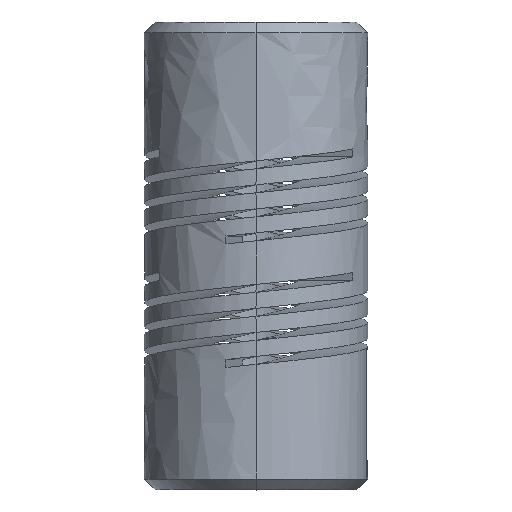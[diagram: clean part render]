
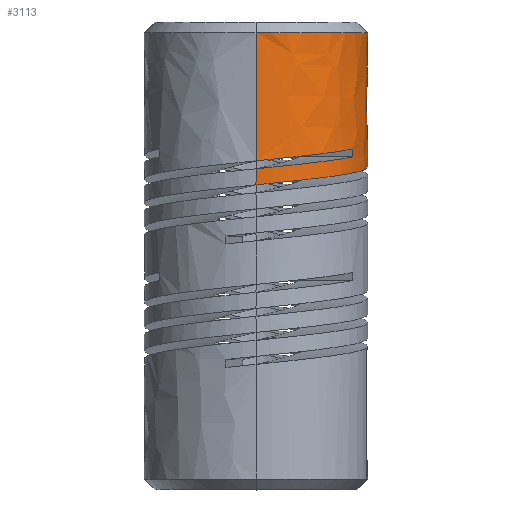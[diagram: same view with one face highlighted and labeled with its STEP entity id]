
A CAD part, top view. The second image highlights one B-rep face of the part: STEP entity #3113.
In plain terms, the highlighted free-form (B-spline) face has degree [1, 3] with [2, 13] control points.
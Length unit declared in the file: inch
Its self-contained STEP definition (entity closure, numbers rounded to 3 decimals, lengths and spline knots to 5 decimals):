
#116=CARTESIAN_POINT('',(-0.6132,0.12103,
-0.70292));
#117=CARTESIAN_POINT('',(-0.57376,0.11698,
-0.70292));
#118=CARTESIAN_POINT('',(-0.49491,0.10889,
-0.68384));
#119=CARTESIAN_POINT('',(-0.40281,0.09674,
-0.60425));
#120=CARTESIAN_POINT('',(-0.35734,0.08459,
-0.49135));
#121=CARTESIAN_POINT('',(-0.36856,0.07244,
-0.37015));
#122=CARTESIAN_POINT('',(-0.43398,0.06029,-0.2675));
#123=CARTESIAN_POINT('',(-0.5255,0.04972,
-0.21411));
#124=CARTESIAN_POINT('',(-0.58907,0.04319,
-0.20491));
#125=CARTESIAN_POINT('',(-0.6132,0.04072,
-0.20489));
#127=CARTESIAN_POINT('',(-0.6132,0.07654,
-0.20489));
#128=CARTESIAN_POINT('',(-0.60516,0.07737,
-0.20488));
#129=CARTESIAN_POINT('',(-0.55767,0.08225,
-0.20713));
#130=CARTESIAN_POINT('',(-0.47321,0.09117,
-0.2365));
#131=CARTESIAN_POINT('',(-0.41726,0.09927,
-0.29524));
#132=CARTESIAN_POINT('',(-0.39754,0.10332,
-0.3294));
#134=CARTESIAN_POINT('',(-0.39754,0.12103,
-0.3294));
#135=CARTESIAN_POINT('',(-0.41726,0.11698,
-0.29524));
#136=CARTESIAN_POINT('',(-0.47321,0.10889,
-0.2365));
#137=CARTESIAN_POINT('',(-0.55767,0.09996,
-0.20713));
#138=CARTESIAN_POINT('',(-0.60516,0.09509,
-0.20488));
#139=CARTESIAN_POINT('',(-0.6132,0.09426,
-0.20489));
#188=CARTESIAN_POINT('',(-0.6132,0.38048,
-0.70292));
#189=CARTESIAN_POINT('',(-0.59852,0.38048,
-0.70292));
#190=CARTESIAN_POINT('',(-0.56808,0.38048,
-0.70031));
#191=CARTESIAN_POINT('',(-0.52125,0.38048,
-0.6871));
#192=CARTESIAN_POINT('',(-0.47613,0.38048,
-0.66391));
#193=CARTESIAN_POINT('',(-0.43584,0.38048,
-0.63126));
#194=CARTESIAN_POINT('',(-0.4032,0.38048,
-0.59098));
#195=CARTESIAN_POINT('',(-0.38387,0.38048,
-0.55337));
#196=CARTESIAN_POINT('',(-0.37339,0.38048,
-0.52243));
#197=CARTESIAN_POINT('',(-0.36795,0.38048,
-0.49917));
#198=CARTESIAN_POINT('',(-0.36535,0.38048,
-0.48002));
#199=CARTESIAN_POINT('',(-0.36434,0.38048,
-0.46497));
#200=CARTESIAN_POINT('',(-0.3641,0.38048,
-0.45391));
#201=CARTESIAN_POINT('',(-0.36434,0.38048,
-0.44284));
#202=CARTESIAN_POINT('',(-0.36535,0.38048,
-0.42779));
#203=CARTESIAN_POINT('',(-0.36795,0.38048,
-0.40864));
#204=CARTESIAN_POINT('',(-0.37339,0.38048,
-0.38538));
#205=CARTESIAN_POINT('',(-0.38387,0.38048,
-0.35444));
#206=CARTESIAN_POINT('',(-0.4032,0.38048,
-0.31683));
#207=CARTESIAN_POINT('',(-0.43584,0.38048,
-0.27655));
#208=CARTESIAN_POINT('',(-0.47613,0.38048,
-0.2439));
#209=CARTESIAN_POINT('',(-0.52125,0.38048,
-0.22071));
#210=CARTESIAN_POINT('',(-0.56808,0.38048,
-0.2075));
#211=CARTESIAN_POINT('',(-0.59852,0.38048,
-0.20489));
#212=CARTESIAN_POINT('',(-0.6132,0.38048,
-0.20489));
#358=DIRECTION('',(0.,-1.,0.));
#359=VECTOR('',#358,0.25945);
#360=CARTESIAN_POINT('',(-0.6132,0.38048,
-0.70292));
#361=LINE('',#360,#359);
#362=DIRECTION('',(0.,-1.,0.));
#363=VECTOR('',#362,0.28622);
#364=CARTESIAN_POINT('',(-0.6132,0.38048,
-0.20489));
#365=LINE('',#364,#363);
#1298=CARTESIAN_POINT('',(-0.6132,0.07654,
-0.20489));
#1299=CARTESIAN_POINT('',(-0.6132,0.0646,
-0.20489));
#1300=CARTESIAN_POINT('',(-0.6132,0.05266,
-0.20489));
#1301=CARTESIAN_POINT('',(-0.6132,0.04072,
-0.20489));
#1693=DIRECTION('',(0.,1.,0.));
#1694=VECTOR('',#1693,0.01772);
#1695=CARTESIAN_POINT('',(-0.39754,0.10332,
-0.3294));
#1696=LINE('',#1695,#1694);
#2866=CARTESIAN_POINT('',(-0.39754,0.10332,
-0.3294));
#2868=VERTEX_POINT('',#2866);
#2909=CARTESIAN_POINT('',(-0.39754,0.12103,
-0.3294));
#2911=VERTEX_POINT('',#2909);
#2917=CARTESIAN_POINT('',(-0.6132,0.12103,
-0.70292));
#2919=VERTEX_POINT('',#2917);
#2921=CARTESIAN_POINT('',(-0.6132,0.38048,
-0.20489));
#2922=CARTESIAN_POINT('',(-0.6132,0.09426,
-0.20489));
#2923=VERTEX_POINT('',#2921);
#2924=VERTEX_POINT('',#2922);
#2929=VERTEX_POINT('',#125);
#2930=VERTEX_POINT('',#127);
#2940=CARTESIAN_POINT('',(-0.6132,0.38048,
-0.70292));
#2941=VERTEX_POINT('',#2940);
#3068=CARTESIAN_POINT('',(-0.6132,0.38942,
-0.20489));
#3069=CARTESIAN_POINT('',(-0.46733,0.38942,
-0.20489));
#3070=CARTESIAN_POINT('',(-0.36418,0.38942,
-0.30804));
#3071=CARTESIAN_POINT('',(-0.36418,0.38942,
-0.45391));
#3072=CARTESIAN_POINT('',(-0.36418,0.38942,
-0.59978));
#3073=CARTESIAN_POINT('',(-0.46733,0.38942,
-0.70292));
#3074=CARTESIAN_POINT('',(-0.6132,0.38942,
-0.70292));
#3075=CARTESIAN_POINT('',(-0.75907,0.38942,
-0.70292));
#3076=CARTESIAN_POINT('',(-0.86221,0.38942,
-0.59978));
#3077=CARTESIAN_POINT('',(-0.86221,0.38942,
-0.45391));
#3078=CARTESIAN_POINT('',(-0.86221,0.38942,
-0.30804));
#3079=CARTESIAN_POINT('',(-0.75907,0.38942,
-0.20489));
#3080=CARTESIAN_POINT('',(-0.6132,0.38942,
-0.20489));
#3081=CARTESIAN_POINT('',(-0.6132,-0.61558,
-0.20489));
#3082=CARTESIAN_POINT('',(-0.46733,-0.61558,
-0.20489));
#3083=CARTESIAN_POINT('',(-0.36418,-0.61558,
-0.30804));
#3084=CARTESIAN_POINT('',(-0.36418,-0.61558,
-0.45391));
#3085=CARTESIAN_POINT('',(-0.36418,-0.61558,
-0.59978));
#3086=CARTESIAN_POINT('',(-0.46733,-0.61558,
-0.70292));
#3087=CARTESIAN_POINT('',(-0.6132,-0.61558,
-0.70292));
#3088=CARTESIAN_POINT('',(-0.75907,-0.61558,
-0.70292));
#3089=CARTESIAN_POINT('',(-0.86221,-0.61558,
-0.59978));
#3090=CARTESIAN_POINT('',(-0.86221,-0.61558,
-0.45391));
#3091=CARTESIAN_POINT('',(-0.86221,-0.61558,
-0.30804));
#3092=CARTESIAN_POINT('',(-0.75907,-0.61558,
-0.20489));
#3093=CARTESIAN_POINT('',(-0.6132,-0.61558,
-0.20489));
#3094=(BOUNDED_SURFACE()B_SPLINE_SURFACE(1,3,((#3068,#3069,#3070,#3071,#3072,
#3073,#3074,#3075,#3076,#3077,#3078,#3079,#3080),(#3081,#3082,#3083,#3084,#3085,
#3086,#3087,#3088,#3089,#3090,#3091,#3092,#3093)),.UNSPECIFIED.,.F.,.T.,.F.)B_SPLINE_SURFACE_WITH_KNOTS((2,2),(4,3,3,3,4),(0.05897,4.09486),(
-3.14159,-1.5708,0.,1.5708,3.14159),
.UNSPECIFIED.)GEOMETRIC_REPRESENTATION_ITEM()RATIONAL_B_SPLINE_SURFACE(((1.,
0.805,0.805,1.,0.805,0.805,
1.,0.805,0.805,1.,0.805,
0.805,1.),(1.,0.805,0.805,1.,
0.805,0.805,1.,0.805,0.805,
1.,0.805,0.805,1.)))REPRESENTATION_ITEM('')SURFACE(
));
#3096=ORIENTED_EDGE('',*,*,#3095,.F.);
#3098=ORIENTED_EDGE('',*,*,#3097,.T.);
#3100=ORIENTED_EDGE('',*,*,#3099,.T.);
#3102=ORIENTED_EDGE('',*,*,#3101,.F.);
#3104=ORIENTED_EDGE('',*,*,#3103,.T.);
#3106=ORIENTED_EDGE('',*,*,#3105,.T.);
#3108=ORIENTED_EDGE('',*,*,#3107,.T.);
#3110=ORIENTED_EDGE('',*,*,#3109,.F.);
#3111=EDGE_LOOP('',(#3096,#3098,#3100,#3102,#3104,#3106,#3108,#3110));
#3112=FACE_OUTER_BOUND('',#3111,.F.);
#126=B_SPLINE_CURVE_WITH_KNOTS('',3,(#116,#117,#118,#119,#120,#121,#122,#123,
#124,#125),.UNSPECIFIED.,.F.,.F.,(4,1,1,1,1,1,1,4),(0.,0.15125,0.3025,
0.45375,0.605,0.75625,0.9075,1.),.UNSPECIFIED.);
#133=B_SPLINE_CURVE_WITH_KNOTS('',3,(#127,#128,#129,#130,#131,#132),
.UNSPECIFIED.,.F.,.F.,(4,1,1,4),(0.,0.0925,0.54625,1.),
.UNSPECIFIED.);
#140=B_SPLINE_CURVE_WITH_KNOTS('',3,(#134,#135,#136,#137,#138,#139),
.UNSPECIFIED.,.F.,.F.,(4,1,1,4),(0.,0.45375,0.9075,1.),.UNSPECIFIED.);
#213=B_SPLINE_CURVE_WITH_KNOTS('',3,(#188,#189,#190,#191,#192,#193,#194,#195,
#196,#197,#198,#199,#200,#201,#202,#203,#204,#205,#206,#207,#208,#209,#210,#211,
#212),.UNSPECIFIED.,.F.,.F.,(4,1,1,1,1,1,1,1,1,1,1,1,1,1,1,1,1,1,1,1,1,1,4),(
0.,0.0625,0.125,0.1875,0.25,0.3125,0.375,0.40625,0.4375,
0.46875,0.48438,0.5,0.51563,0.53125,0.5625,0.59375,0.625,
0.6875,0.75,0.8125,0.875,0.9375,1.),.UNSPECIFIED.);
#1302=B_SPLINE_CURVE_WITH_KNOTS('',3,(#1298,#1299,#1300,#1301),.UNSPECIFIED.,
.F.,.F.,(4,4),(0.,1.),.UNSPECIFIED.);
#3095=EDGE_CURVE('',#2941,#2923,#213,.T.);
#3097=EDGE_CURVE('',#2941,#2919,#361,.T.);
#3099=EDGE_CURVE('',#2919,#2929,#126,.T.);
#3101=EDGE_CURVE('',#2930,#2929,#1302,.T.);
#3103=EDGE_CURVE('',#2930,#2868,#133,.T.);
#3105=EDGE_CURVE('',#2868,#2911,#1696,.T.);
#3107=EDGE_CURVE('',#2911,#2924,#140,.T.);
#3109=EDGE_CURVE('',#2923,#2924,#365,.T.);
#3113=ADVANCED_FACE('',(#3112),#3094,.T.);
